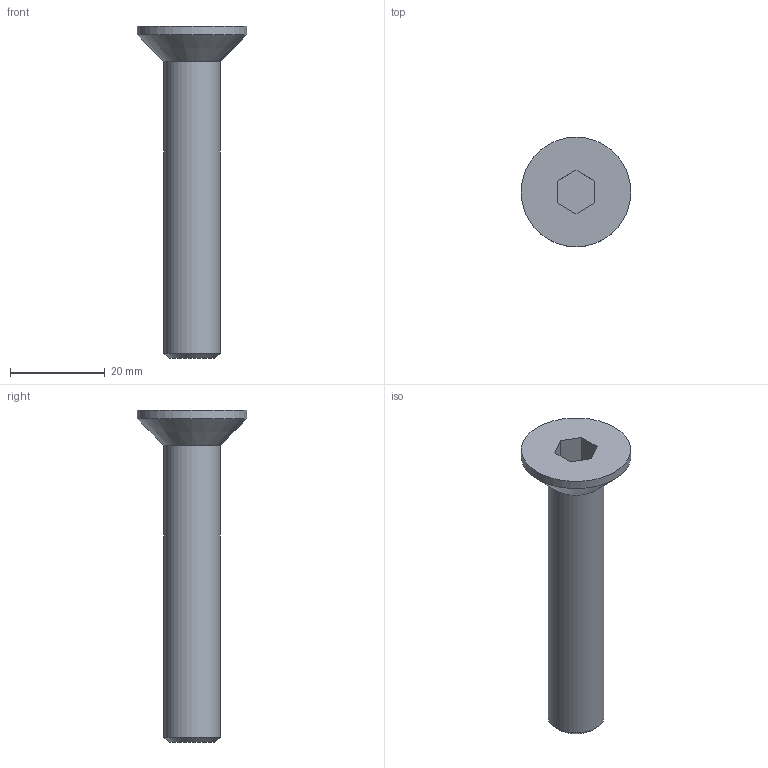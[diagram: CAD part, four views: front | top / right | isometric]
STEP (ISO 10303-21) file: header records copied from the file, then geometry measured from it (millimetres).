
FILE_DESCRIPTION(/* description */ (''),/* implementation_level */ '2;1');
FILE_NAME(/* name */ 'M12 Countersunk Bolt - ISO 10642 - A2 Stainless Steel.step',/* time_stamp */ '2024-07-05T09:51:20+03:00',/* author */ (''),/* organization */ (''),/* preprocessor_version */ 'ST-DEVELOPER v20',/* originating_system */ 'Autodesk Translation Framework v13.14.0.145',/* authorisation */ '');
FILE_SCHEMA (('AUTOMOTIVE_DESIGN { 1 0 10303 214 3 1 1 }'));
Length unit declared in the file: millimetre
Products named in the file (2): M12 Countersunk Bolt - ISO 10642 - A2 Stainless Steel; Hexagon Socket Countersunk Head Screw ISO 10642 - M12 x 70 Stainless 
Steel A2 Plain v1
Assembly tree (1 placements, depth 2):
  M12 Countersunk Bolt - ISO 10642 - A2 Stainless Steel
    Hexagon Socket Countersunk Head Screw ISO 10642 - M12 x 70 Stainless 
Steel A2 Plain v1
Bounding box: 23.12 x 23.12 x 70 mm (x, y, z)
Volume: 8564.9 mm3; surface area: 3640.8 mm2
Topology: 1 solids, 1 shells, 14 faces, 29 edges, 18 vertices
Faces by surface type: plane 9, cone 2, cylinder 2, torus 1
Full cylindrical faces by diameter (mm): 11.834 x1, 23.12 x1
Entity records: 428 total; most frequent: DIRECTION 70, CARTESIAN_POINT 64, ORIENTED_EDGE 58, EDGE_CURVE 29, AXIS2_PLACEMENT_3D 24, LINE 22, VECTOR 22, VERTEX_POINT 18
